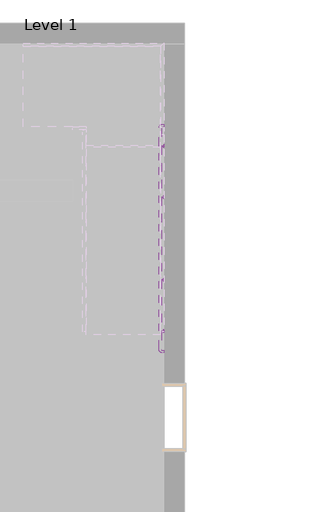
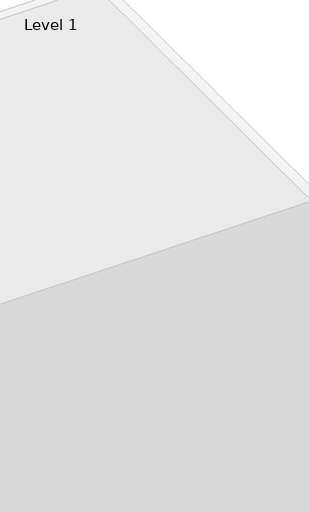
# One storey, part 25 of 27: 1 railing.
"""IFC4 building model written with IfcOpenShell, lengths in millimetres."""

from ifc_helpers import new_model, si_unit, point, frame, frame_2d, origin, place, context, project, spatial, circle_curve, ellipse_curve, trimmed, segment, composite_curve, outline, extrude, element, save
from ifc_brep_helpers import plane_surface, cylinder_surface, revolved_surface, advanced_brep

model = new_model("IFC4")

# Units and contexts
model_context = context("Model", 3, world=origin())
ifc_project = project(units=[si_unit("LENGTHUNIT", "METRE", prefix="MILLI")], contexts=[model_context])

# Site, building, storey
site = spatial("IfcSite", under=ifc_project)
building = spatial("IfcBuilding", under=site)
storey = spatial("IfcBuildingStorey", under=building, Name="Level 1", Elevation=0.0)

# Railing
placement = place(None, origin())
element("IfcRailing", 1, ObjectType="Handrail - Pipe - Wall-Ramp", at=placement, inside=storey, context=model_context, shape_type="SolidModel", body=[
    advanced_brep(
    [(27336.4999097, 26573.5799804, 8491.9039863), (27374.5999097, 26573.5799804, 8491.9039863), (27336.4999097, 29323.5799804, 6764.631259), (27374.5999097, 29323.5799804, 6764.631259)],
    [
        (0, 1, ellipse_curve(frame((27355.5499097, 26573.5799804, 8491.9039863), z_axis=(0.0, -1.0, 0.0), x_axis=(0.0, 0.0, 1.0)), 22.496014, 19.05)),
        (1, 0, ellipse_curve(frame((27355.5499097, 26573.5799804, 8491.9039863), z_axis=(0.0, -1.0, 0.0), x_axis=(0.0, 0.0, 1.0)), 22.496014, 19.05)),
        (2, 3, ellipse_curve(frame((27355.5499097, 29323.5799804, 6764.631259), z_axis=(0.0, 1.0, 0.0), x_axis=(0.0, 0.0, 1.0)), 22.496014, 19.05)),
        (3, 2, ellipse_curve(frame((27355.5499097, 29323.5799804, 6764.631259), z_axis=(0.0, 1.0, 0.0), x_axis=(0.0, 0.0, 1.0)), 22.496014, 19.05)),
        (0, 2),
        (3, 1),
    ],
    [
        plane_surface(frame((27355.5499097, 26573.5799804, 8514.4000003), z_axis=(0.0, -1.0, 0.0), x_axis=(0.0, 0.0, 1.0))),
        plane_surface(frame((27355.5499097, 29323.5799804, 6787.127273), z_axis=(0.0, 1.0, 0.0), x_axis=(0.0, 0.0, 1.0))),
        cylinder_surface(frame((27355.5499097, 26563.4475738, 8498.2681425), z_axis=(0.0, -0.8468166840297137, 0.5318848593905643), x_axis=(1.0, 0.0, 0.0)), 19.05),
    ],
    [
        (0, [[1, 2]]),
        (1, [[3, 4]]),
        (2, [[-1, 5, -4, 6]]),
        (2, [[-2, -6, -3, -5]]),
    ],
),
    advanced_brep(
    [(27355.4999097, 28551.8299804, 7253.8243805), (27355.4999097, 28564.5299804, 7253.8243805), (27355.4999097, 28551.8299804, 7196.6743805), (27355.4999097, 28564.5299804, 7196.6743805), (27374.5499097, 28564.5299804, 7177.6243805), (27374.5499097, 28551.8299804, 7177.6243805), (27403.1249097, 28551.8299804, 7177.6243805), (27403.1249097, 28564.5299804, 7177.6243805)],
    [
        (0, 1, circle_curve(frame((27355.4999097, 28558.1799804, 7253.8243805), z_axis=(0.0, 0.0, 1.0), x_axis=(0.0, 1.0, 0.0)), 6.35)),
        (1, 0, circle_curve(frame((27355.4999097, 28558.1799804, 7253.8243805), z_axis=(0.0, 0.0, 1.0), x_axis=(0.0, 1.0, 0.0)), 6.35)),
        (0, 2),
        (2, 3, circle_curve(frame((27355.4999097, 28558.1799804, 7196.6743805), z_axis=(0.0, 0.0, 1.0), x_axis=(0.0, 1.0, 0.0)), 6.35)),
        (3, 1),
        (3, 2, circle_curve(frame((27355.4999097, 28558.1799804, 7196.6743805), z_axis=(0.0, 0.0, 1.0), x_axis=(0.0, 1.0, 0.0)), 6.35)),
        (4, 3, circle_curve(frame((27374.5499097, 28564.5299804, 7196.6743805), z_axis=(0.0, 1.0, 0.0), x_axis=(-1.0, 0.0, 0.0)), 19.05)),
        (2, 5, circle_curve(frame((27374.5499097, 28551.8299804, 7196.6743805), z_axis=(0.0, -1.0, 0.0), x_axis=(-1.0, 0.0, 0.0)), 19.05)),
        (5, 4, circle_curve(frame((27374.5499097, 28558.1799804, 7177.6243805), z_axis=(-1.0, 0.0, 0.0), x_axis=(0.0, 1.0, 0.0)), 6.35)),
        (4, 5, circle_curve(frame((27374.5499097, 28558.1799804, 7177.6243805), z_axis=(-1.0, 0.0, 0.0), x_axis=(0.0, 1.0, 0.0)), 6.35)),
        (6, 7, circle_curve(frame((27403.1249097, 28558.1799804, 7177.6243805), z_axis=(1.0, 0.0, 0.0), x_axis=(0.0, 1.0, 0.0)), 6.35)),
        (7, 6, circle_curve(frame((27403.1249097, 28558.1799804, 7177.6243805), z_axis=(1.0, 0.0, 0.0), x_axis=(0.0, 1.0, 0.0)), 6.35)),
        (5, 6),
        (7, 4),
    ],
    [
        plane_surface(frame((27355.4999097, 28564.5299804, 7253.8243805), z_axis=(0.0, 0.0, 1.0), x_axis=(1.0, 0.0, 0.0))),
        cylinder_surface(frame((27355.4999097, 28558.1799804, 7253.8243805), z_axis=(0.0, 0.0, 1.0), x_axis=(0.0, 1.0, 0.0)), 6.35),
        revolved_surface(trimmed(ellipse_curve(frame((27355.4999097, 28558.1799804, 7196.6743805), z_axis=(0.0, 0.0, 1.0), x_axis=(0.0, 1.0, 0.0)), 6.35, 6.35), [point((27355.4999097, 28551.8299804, 7196.6743805))], [point((27355.4999097, 28564.5299804, 7196.6743805))], True, "CARTESIAN"), (27374.5499097, 28558.1799804, 7196.6743805), (0.0, -1.0, 0.0)),
        revolved_surface(trimmed(ellipse_curve(frame((27355.4999097, 28558.1799804, 7196.6743805), z_axis=(0.0, 0.0, 1.0), x_axis=(0.0, 1.0, 0.0)), 6.35, 6.35), [point((27355.4999097, 28564.5299804, 7196.6743805))], [point((27355.4999097, 28551.8299804, 7196.6743805))], True, "CARTESIAN"), (27374.5499097, 28558.1799804, 7196.6743805), (0.0, -1.0, 0.0)),
        plane_surface(frame((27403.1249097, 28558.1799804, 7171.2743805), z_axis=(1.0, 0.0, 0.0), x_axis=(0.0, 1.0, 0.0))),
        cylinder_surface(frame((27374.5499097, 28558.1799804, 7177.6243805), z_axis=(-1.0, 0.0, 0.0), x_axis=(0.0, 1.0, 0.0)), 6.35),
    ],
    [
        (0, [[1, 2]]),
        (1, [[-1, 3, 4, 5]]),
        (1, [[-2, -5, 6, -3]]),
        (2, [[7, -4, 8, 9]]),
        (3, [[-8, -6, -7, 10]]),
        (4, [[11, 12]]),
        (5, [[-9, 13, -12, 14]]),
        (5, [[-10, -14, -11, -13]]),
    ],
),
    extrude(outline(composite_curve([segment(trimmed(circle_curve(frame_2d((28558.1799804, 7177.6243805)), 25.4), [point((28583.5799804, 7177.6243805))], [point((28532.7799804, 7177.6243805))], False, "CARTESIAN"), True, "CONTINUOUS"), segment(trimmed(circle_curve(frame_2d((28558.1799804, 7177.6243805)), 25.4), [point((28532.7799804, 7177.6243805))], [point((28583.5799804, 7177.6243805))], False, "CARTESIAN"), True, "CONTINUOUS")], self_intersect=False)), frame((27403.1249097, 0.0, 0.0), z_axis=(1.0, 0.0, 0.0), x_axis=(0.0, 1.0, 0.0)), (0.0, 0.0, 1.0), 9.525),
    advanced_brep(
    [(27355.4999097, 27332.6299804, 8019.6028929), (27355.4999097, 27345.3299804, 8019.6028929), (27355.4999097, 27332.6299804, 7962.4528929), (27355.4999097, 27345.3299804, 7962.4528929), (27374.5499097, 27345.3299804, 7943.4028929), (27374.5499097, 27332.6299804, 7943.4028929), (27403.1249097, 27332.6299804, 7943.4028929), (27403.1249097, 27345.3299804, 7943.4028929)],
    [
        (0, 1, circle_curve(frame((27355.4999097, 27338.9799804, 8019.6028929), z_axis=(0.0, 0.0, 1.0), x_axis=(0.0, 1.0, 0.0)), 6.35)),
        (1, 0, circle_curve(frame((27355.4999097, 27338.9799804, 8019.6028929), z_axis=(0.0, 0.0, 1.0), x_axis=(0.0, 1.0, 0.0)), 6.35)),
        (0, 2),
        (2, 3, circle_curve(frame((27355.4999097, 27338.9799804, 7962.4528929), z_axis=(0.0, 0.0, 1.0), x_axis=(0.0, 1.0, 0.0)), 6.35)),
        (3, 1),
        (3, 2, circle_curve(frame((27355.4999097, 27338.9799804, 7962.4528929), z_axis=(0.0, 0.0, 1.0), x_axis=(0.0, 1.0, 0.0)), 6.35)),
        (4, 3, circle_curve(frame((27374.5499097, 27345.3299804, 7962.4528929), z_axis=(0.0, 1.0, 0.0), x_axis=(-1.0, 0.0, 0.0)), 19.05)),
        (2, 5, circle_curve(frame((27374.5499097, 27332.6299804, 7962.4528929), z_axis=(0.0, -1.0, 0.0), x_axis=(-1.0, 0.0, 0.0)), 19.05)),
        (5, 4, circle_curve(frame((27374.5499097, 27338.9799804, 7943.4028929), z_axis=(-1.0, 0.0, 0.0), x_axis=(0.0, 1.0, 0.0)), 6.35)),
        (4, 5, circle_curve(frame((27374.5499097, 27338.9799804, 7943.4028929), z_axis=(-1.0, 0.0, 0.0), x_axis=(0.0, 1.0, 0.0)), 6.35)),
        (6, 7, circle_curve(frame((27403.1249097, 27338.9799804, 7943.4028929), z_axis=(1.0, 0.0, 0.0), x_axis=(0.0, 1.0, 0.0)), 6.35)),
        (7, 6, circle_curve(frame((27403.1249097, 27338.9799804, 7943.4028929), z_axis=(1.0, 0.0, 0.0), x_axis=(0.0, 1.0, 0.0)), 6.35)),
        (5, 6),
        (7, 4),
    ],
    [
        plane_surface(frame((27355.4999097, 27345.3299804, 8019.6028929), z_axis=(0.0, 0.0, 1.0), x_axis=(1.0, 0.0, 0.0))),
        cylinder_surface(frame((27355.4999097, 27338.9799804, 8019.6028929), z_axis=(0.0, 0.0, 1.0), x_axis=(0.0, 1.0, 0.0)), 6.35),
        revolved_surface(trimmed(ellipse_curve(frame((27355.4999097, 27338.9799804, 7962.4528929), z_axis=(0.0, 0.0, 1.0), x_axis=(0.0, 1.0, 0.0)), 6.35, 6.35), [point((27355.4999097, 27332.6299804, 7962.4528929))], [point((27355.4999097, 27345.3299804, 7962.4528929))], True, "CARTESIAN"), (27374.5499097, 27338.9799804, 7962.4528929), (0.0, -1.0, 0.0)),
        revolved_surface(trimmed(ellipse_curve(frame((27355.4999097, 27338.9799804, 7962.4528929), z_axis=(0.0, 0.0, 1.0), x_axis=(0.0, 1.0, 0.0)), 6.35, 6.35), [point((27355.4999097, 27345.3299804, 7962.4528929))], [point((27355.4999097, 27332.6299804, 7962.4528929))], True, "CARTESIAN"), (27374.5499097, 27338.9799804, 7962.4528929), (0.0, -1.0, 0.0)),
        plane_surface(frame((27403.1249097, 27338.9799804, 7937.0528929), z_axis=(1.0, 0.0, 0.0), x_axis=(0.0, 1.0, 0.0))),
        cylinder_surface(frame((27374.5499097, 27338.9799804, 7943.4028929), z_axis=(-1.0, 0.0, 0.0), x_axis=(0.0, 1.0, 0.0)), 6.35),
    ],
    [
        (0, [[1, 2]]),
        (1, [[-1, 3, 4, 5]]),
        (1, [[-2, -5, 6, -3]]),
        (2, [[7, -4, 8, 9]]),
        (3, [[-8, -6, -7, 10]]),
        (4, [[11, 12]]),
        (5, [[-9, 13, -12, 14]]),
        (5, [[-10, -14, -11, -13]]),
    ],
),
    extrude(outline(composite_curve([segment(trimmed(circle_curve(frame_2d((27338.9799804, 7943.4028929)), 25.4), [point((27364.3799804, 7943.4028929))], [point((27313.5799804, 7943.4028929))], False, "CARTESIAN"), True, "CONTINUOUS"), segment(trimmed(circle_curve(frame_2d((27338.9799804, 7943.4028929)), 25.4), [point((27313.5799804, 7943.4028929))], [point((27364.3799804, 7943.4028929))], False, "CARTESIAN"), True, "CONTINUOUS")], self_intersect=False)), frame((27403.1249097, 0.0, 0.0), z_axis=(1.0, 0.0, 0.0), x_axis=(0.0, 1.0, 0.0)), (0.0, 0.0, 1.0), 9.525),
    advanced_brep(
    [(27374.5499097, 29310.8799804, 6779.0541325), (27336.4499097, 29310.8799804, 6779.0541325), (27374.5499097, 29577.5799804, 6779.0541325), (27336.4499097, 29577.5799804, 6779.0541325), (27412.6499097, 29596.6299804, 6779.0541325), (27412.6499097, 29634.7299804, 6779.0541325), (27393.5999097, 29634.7299804, 6779.0541325), (27393.5999097, 29596.6299804, 6779.0541325)],
    [
        (0, 1, circle_curve(frame((27355.4999097, 29310.8799804, 6779.0541325), z_axis=(0.0, -1.0, 0.0), x_axis=(-1.0, 0.0, 0.0)), 19.05)),
        (1, 0, circle_curve(frame((27355.4999097, 29310.8799804, 6779.0541325), z_axis=(0.0, -1.0, 0.0), x_axis=(-1.0, 0.0, 0.0)), 19.05)),
        (0, 2),
        (2, 3, circle_curve(frame((27355.4999097, 29577.5799804, 6779.0541325), z_axis=(0.0, -1.0, 0.0), x_axis=(-1.0, 0.0, 0.0)), 19.05)),
        (3, 1),
        (3, 2, circle_curve(frame((27355.4999097, 29577.5799804, 6779.0541325), z_axis=(0.0, -1.0, 0.0), x_axis=(-1.0, 0.0, 0.0)), 19.05)),
        (4, 5, circle_curve(frame((27412.6499097, 29615.6799804, 6779.0541325), z_axis=(1.0, 0.0, 0.0), x_axis=(0.0, 1.0, 0.0)), 19.05)),
        (5, 4, circle_curve(frame((27412.6499097, 29615.6799804, 6779.0541325), z_axis=(1.0, 0.0, 0.0), x_axis=(0.0, 1.0, 0.0)), 19.05)),
        (6, 7, circle_curve(frame((27393.5999097, 29615.6799804, 6779.0541325), z_axis=(1.0, 0.0, 0.0), x_axis=(0.0, 1.0, 0.0)), 19.05)),
        (7, 4),
        (5, 6),
        (7, 6, circle_curve(frame((27393.5999097, 29615.6799804, 6779.0541325), z_axis=(1.0, 0.0, 0.0), x_axis=(0.0, 1.0, 0.0)), 19.05)),
        (6, 3, circle_curve(frame((27393.5999097, 29577.5799804, 6779.0541325), z_axis=(0.0, 0.0, 1.0), x_axis=(-1.0, 0.0, 0.0)), 57.15)),
        (2, 7, circle_curve(frame((27393.5999097, 29577.5799804, 6779.0541325), z_axis=(0.0, 0.0, -1.0), x_axis=(-1.0, 0.0, 0.0)), 19.05)),
    ],
    [
        plane_surface(frame((27355.4999097, 29310.8799804, 6779.0541325), z_axis=(0.0, -1.0, 0.0), x_axis=(0.0, 0.0, 1.0))),
        cylinder_surface(frame((27355.4999097, 29310.8799804, 6779.0541325), z_axis=(0.0, -1.0, 0.0), x_axis=(-1.0, 0.0, 0.0)), 19.05),
        plane_surface(frame((27412.6499097, 29615.6799804, 6779.0541325), z_axis=(1.0, 0.0, 0.0), x_axis=(0.0, 0.0, 1.0))),
        cylinder_surface(frame((27393.5999097, 29615.6799804, 6779.0541325), z_axis=(-1.0, 0.0, 0.0), x_axis=(0.0, 1.0, 0.0)), 19.05),
        revolved_surface(trimmed(ellipse_curve(frame((27355.4999097, 29577.5799804, 6779.0541325), z_axis=(0.0, -1.0, 0.0), x_axis=(-1.0, 0.0, 0.0)), 19.05, 19.05), [point((27374.5499097, 29577.5799804, 6779.0541325))], [point((27336.4499097, 29577.5799804, 6779.0541325))], True, "CARTESIAN"), (27393.5999097, 29577.5799804, 6779.0541325), (0.0, 0.0, -1.0)),
        revolved_surface(trimmed(ellipse_curve(frame((27355.4999097, 29577.5799804, 6779.0541325), z_axis=(0.0, -1.0, 0.0), x_axis=(-1.0, 0.0, 0.0)), 19.05, 19.05), [point((27336.4499097, 29577.5799804, 6779.0541325))], [point((27374.5499097, 29577.5799804, 6779.0541325))], True, "CARTESIAN"), (27393.5999097, 29577.5799804, 6779.0541325), (0.0, 0.0, -1.0)),
    ],
    [
        (0, [[1, 2]]),
        (1, [[-1, 3, 4, 5]]),
        (1, [[-2, -5, 6, -3]]),
        (2, [[7, 8]]),
        (3, [[9, 10, -8, 11]]),
        (3, [[12, -11, -7, -10]]),
        (4, [[13, -4, 14, -9]]),
        (5, [[-14, -6, -13, -12]]),
    ],
),
    advanced_brep(
    [(27403.1249097, 29310.8799804, 6696.5041325), (27403.1249097, 29310.8799804, 6709.2041325), (27374.5499097, 29310.8799804, 6696.5041325), (27374.5499097, 29310.8799804, 6709.2041325), (27349.1499097, 29310.8799804, 6779.0541325), (27361.8499097, 29310.8799804, 6779.0541325), (27361.8499097, 29310.8799804, 6721.9041325), (27349.1499097, 29310.8799804, 6721.9041325)],
    [
        (0, 1, circle_curve(frame((27403.1249097, 29310.8799804, 6702.8541325), z_axis=(1.0, 0.0, 0.0), x_axis=(0.0, 0.0, 1.0)), 6.35)),
        (1, 0, circle_curve(frame((27403.1249097, 29310.8799804, 6702.8541325), z_axis=(1.0, 0.0, 0.0), x_axis=(0.0, 0.0, 1.0)), 6.35)),
        (0, 2),
        (2, 3, circle_curve(frame((27374.5499097, 29310.8799804, 6702.8541325), z_axis=(1.0, 0.0, 0.0), x_axis=(0.0, 0.0, 1.0)), 6.35)),
        (3, 1),
        (3, 2, circle_curve(frame((27374.5499097, 29310.8799804, 6702.8541325), z_axis=(1.0, 0.0, 0.0), x_axis=(0.0, 0.0, 1.0)), 6.35)),
        (4, 5, circle_curve(frame((27355.4999097, 29310.8799804, 6779.0541325), z_axis=(0.0, 0.0, 1.0), x_axis=(1.0, 0.0, 0.0)), 6.35)),
        (5, 4, circle_curve(frame((27355.4999097, 29310.8799804, 6779.0541325), z_axis=(0.0, 0.0, 1.0), x_axis=(1.0, 0.0, 0.0)), 6.35)),
        (6, 7, circle_curve(frame((27355.4999097, 29310.8799804, 6721.9041325), z_axis=(0.0, 0.0, 1.0), x_axis=(1.0, 0.0, 0.0)), 6.35)),
        (7, 4),
        (5, 6),
        (7, 6, circle_curve(frame((27355.4999097, 29310.8799804, 6721.9041325), z_axis=(0.0, 0.0, 1.0), x_axis=(1.0, 0.0, 0.0)), 6.35)),
        (6, 3, circle_curve(frame((27374.5499097, 29310.8799804, 6721.9041325), z_axis=(0.0, -1.0, 0.0), x_axis=(0.0, 0.0, -1.0)), 12.7)),
        (2, 7, circle_curve(frame((27374.5499097, 29310.8799804, 6721.9041325), z_axis=(0.0, 1.0, 0.0), x_axis=(0.0, 0.0, -1.0)), 25.4)),
    ],
    [
        plane_surface(frame((27403.1249097, 29310.8799804, 6702.8541325), z_axis=(1.0, 0.0, 0.0), x_axis=(0.0, 1.0, 0.0))),
        cylinder_surface(frame((27403.1249097, 29310.8799804, 6702.8541325), z_axis=(1.0, 0.0, 0.0), x_axis=(0.0, 0.0, 1.0)), 6.35),
        plane_surface(frame((27355.4999097, 29310.8799804, 6779.0541325), z_axis=(0.0, 0.0, 1.0), x_axis=(0.0, 1.0, 0.0))),
        cylinder_surface(frame((27355.4999097, 29310.8799804, 6721.9041325), z_axis=(0.0, 0.0, -1.0), x_axis=(1.0, 0.0, 0.0)), 6.35),
        revolved_surface(trimmed(ellipse_curve(frame((27374.5499097, 29310.8799804, 6702.8541325), z_axis=(1.0, 0.0, 0.0), x_axis=(0.0, 0.0, 1.0)), 6.35, 6.35), [point((27374.5499097, 29310.8799804, 6696.5041325))], [point((27374.5499097, 29310.8799804, 6709.2041325))], True, "CARTESIAN"), (27374.5499097, 29310.8799804, 6721.9041325), (0.0, 1.0, 0.0)),
        revolved_surface(trimmed(ellipse_curve(frame((27374.5499097, 29310.8799804, 6702.8541325), z_axis=(1.0, 0.0, 0.0), x_axis=(0.0, 0.0, 1.0)), 6.35, 6.35), [point((27374.5499097, 29310.8799804, 6709.2041325))], [point((27374.5499097, 29310.8799804, 6696.5041325))], True, "CARTESIAN"), (27374.5499097, 29310.8799804, 6721.9041325), (0.0, 1.0, 0.0)),
    ],
    [
        (0, [[1, 2]]),
        (1, [[-1, 3, 4, 5]]),
        (1, [[-2, -5, 6, -3]]),
        (2, [[7, 8]]),
        (3, [[9, 10, -8, 11]]),
        (3, [[12, -11, -7, -10]]),
        (4, [[13, -4, 14, -9]]),
        (5, [[-14, -6, -13, -12]]),
    ],
),
    extrude(outline(composite_curve([segment(trimmed(circle_curve(frame_2d((29310.8799804, 6702.8541325)), 25.4), [point((29336.2799804, 6702.8541325))], [point((29285.4799804, 6702.8541325))], False, "CARTESIAN"), True, "CONTINUOUS"), segment(trimmed(circle_curve(frame_2d((29310.8799804, 6702.8541325)), 25.4), [point((29285.4799804, 6702.8541325))], [point((29336.2799804, 6702.8541325))], False, "CARTESIAN"), True, "CONTINUOUS")], self_intersect=False)), frame((27403.1249097, 0.0, 0.0), z_axis=(1.0, 0.0, 0.0), x_axis=(0.0, 1.0, 0.0)), (0.0, 0.0, 1.0), 9.525),
    advanced_brep(
    [(27412.6499097, 26300.5299804, 8490.3731408), (27412.6499097, 26262.4299804, 8490.3731408), (27393.5999097, 26300.5299804, 8490.3731408), (27393.5999097, 26262.4299804, 8490.3731408), (27336.4499097, 26319.5799804, 8490.3731408), (27374.5499097, 26319.5799804, 8490.3731408), (27374.5499097, 26586.2799804, 8490.3731408), (27336.4499097, 26586.2799804, 8490.3731408)],
    [
        (0, 1, circle_curve(frame((27412.6499097, 26281.4799804, 8490.3731408), z_axis=(1.0, 0.0, 0.0), x_axis=(0.0, -1.0, 0.0)), 19.05)),
        (1, 0, circle_curve(frame((27412.6499097, 26281.4799804, 8490.3731408), z_axis=(1.0, 0.0, 0.0), x_axis=(0.0, -1.0, 0.0)), 19.05)),
        (0, 2),
        (2, 3, circle_curve(frame((27393.5999097, 26281.4799804, 8490.3731408), z_axis=(1.0, 0.0, 0.0), x_axis=(0.0, -1.0, 0.0)), 19.05)),
        (3, 1),
        (3, 2, circle_curve(frame((27393.5999097, 26281.4799804, 8490.3731408), z_axis=(1.0, 0.0, 0.0), x_axis=(0.0, -1.0, 0.0)), 19.05)),
        (4, 3, circle_curve(frame((27393.5999097, 26319.5799804, 8490.3731408), z_axis=(0.0, 0.0, 1.0), x_axis=(0.0, -1.0, 0.0)), 57.15)),
        (2, 5, circle_curve(frame((27393.5999097, 26319.5799804, 8490.3731408), z_axis=(0.0, 0.0, -1.0), x_axis=(0.0, -1.0, 0.0)), 19.05)),
        (5, 4, circle_curve(frame((27355.4999097, 26319.5799804, 8490.3731408), z_axis=(0.0, -1.0, 0.0), x_axis=(-1.0, 0.0, 0.0)), 19.05)),
        (4, 5, circle_curve(frame((27355.4999097, 26319.5799804, 8490.3731408), z_axis=(0.0, -1.0, 0.0), x_axis=(-1.0, 0.0, 0.0)), 19.05)),
        (6, 7, circle_curve(frame((27355.4999097, 26586.2799804, 8490.3731408), z_axis=(0.0, 1.0, 0.0), x_axis=(-1.0, 0.0, 0.0)), 19.05)),
        (7, 6, circle_curve(frame((27355.4999097, 26586.2799804, 8490.3731408), z_axis=(0.0, 1.0, 0.0), x_axis=(-1.0, 0.0, 0.0)), 19.05)),
        (5, 6),
        (7, 4),
    ],
    [
        plane_surface(frame((27412.6499097, 26281.4799804, 8490.3731408), z_axis=(1.0, 0.0, 0.0), x_axis=(0.0, 0.0, 1.0))),
        cylinder_surface(frame((27412.6499097, 26281.4799804, 8490.3731408), z_axis=(1.0, 0.0, 0.0), x_axis=(0.0, -1.0, 0.0)), 19.05),
        revolved_surface(trimmed(ellipse_curve(frame((27393.5999097, 26281.4799804, 8490.3731408), z_axis=(1.0, 0.0, 0.0), x_axis=(0.0, -1.0, 0.0)), 19.05, 19.05), [point((27393.5999097, 26300.5299804, 8490.3731408))], [point((27393.5999097, 26262.4299804, 8490.3731408))], True, "CARTESIAN"), (27393.5999097, 26319.5799804, 8490.3731408), (0.0, 0.0, -1.0)),
        revolved_surface(trimmed(ellipse_curve(frame((27393.5999097, 26281.4799804, 8490.3731408), z_axis=(1.0, 0.0, 0.0), x_axis=(0.0, -1.0, 0.0)), 19.05, 19.05), [point((27393.5999097, 26262.4299804, 8490.3731408))], [point((27393.5999097, 26300.5299804, 8490.3731408))], True, "CARTESIAN"), (27393.5999097, 26319.5799804, 8490.3731408), (0.0, 0.0, -1.0)),
        plane_surface(frame((27355.4999097, 26586.2799804, 8490.3731408), z_axis=(0.0, 1.0, 0.0), x_axis=(0.0, 0.0, 1.0))),
        cylinder_surface(frame((27355.4999097, 26319.5799804, 8490.3731408), z_axis=(0.0, -1.0, 0.0), x_axis=(-1.0, 0.0, 0.0)), 19.05),
    ],
    [
        (0, [[1, 2]]),
        (1, [[-1, 3, 4, 5]]),
        (1, [[-2, -5, 6, -3]]),
        (2, [[7, -4, 8, 9]]),
        (3, [[-8, -6, -7, 10]]),
        (4, [[11, 12]]),
        (5, [[-9, 13, -12, 14]]),
        (5, [[-10, -14, -11, -13]]),
    ],
),
    advanced_brep(
    [(27403.1249097, 26586.2799804, 8407.8231408), (27403.1249097, 26586.2799804, 8420.5231408), (27374.5499097, 26586.2799804, 8407.8231408), (27374.5499097, 26586.2799804, 8420.5231408), (27361.8499097, 26586.2799804, 8433.2231408), (27349.1499097, 26586.2799804, 8433.2231408), (27349.1499097, 26586.2799804, 8490.3731408), (27361.8499097, 26586.2799804, 8490.3731408)],
    [
        (0, 1, circle_curve(frame((27403.1249097, 26586.2799804, 8414.1731408), z_axis=(1.0, 0.0, 0.0), x_axis=(0.0, 0.0, 1.0)), 6.35)),
        (1, 0, circle_curve(frame((27403.1249097, 26586.2799804, 8414.1731408), z_axis=(1.0, 0.0, 0.0), x_axis=(0.0, 0.0, 1.0)), 6.35)),
        (0, 2),
        (2, 3, circle_curve(frame((27374.5499097, 26586.2799804, 8414.1731408), z_axis=(1.0, 0.0, 0.0), x_axis=(0.0, 0.0, 1.0)), 6.35)),
        (3, 1),
        (3, 2, circle_curve(frame((27374.5499097, 26586.2799804, 8414.1731408), z_axis=(1.0, 0.0, 0.0), x_axis=(0.0, 0.0, 1.0)), 6.35)),
        (4, 3, circle_curve(frame((27374.5499097, 26586.2799804, 8433.2231408), z_axis=(0.0, -1.0, 0.0), x_axis=(0.0, 0.0, -1.0)), 12.7)),
        (2, 5, circle_curve(frame((27374.5499097, 26586.2799804, 8433.2231408), z_axis=(0.0, 1.0, 0.0), x_axis=(0.0, 0.0, -1.0)), 25.4)),
        (5, 4, circle_curve(frame((27355.4999097, 26586.2799804, 8433.2231408), z_axis=(0.0, 0.0, -1.0), x_axis=(1.0, 0.0, 0.0)), 6.35)),
        (4, 5, circle_curve(frame((27355.4999097, 26586.2799804, 8433.2231408), z_axis=(0.0, 0.0, -1.0), x_axis=(1.0, 0.0, 0.0)), 6.35)),
        (6, 7, circle_curve(frame((27355.4999097, 26586.2799804, 8490.3731408), z_axis=(0.0, 0.0, 1.0), x_axis=(1.0, 0.0, 0.0)), 6.35)),
        (7, 6, circle_curve(frame((27355.4999097, 26586.2799804, 8490.3731408), z_axis=(0.0, 0.0, 1.0), x_axis=(1.0, 0.0, 0.0)), 6.35)),
        (5, 6),
        (7, 4),
    ],
    [
        plane_surface(frame((27403.1249097, 26586.2799804, 8414.1731408), z_axis=(1.0, 0.0, 0.0), x_axis=(0.0, 1.0, 0.0))),
        cylinder_surface(frame((27403.1249097, 26586.2799804, 8414.1731408), z_axis=(1.0, 0.0, 0.0), x_axis=(0.0, 0.0, 1.0)), 6.35),
        revolved_surface(trimmed(ellipse_curve(frame((27374.5499097, 26586.2799804, 8414.1731408), z_axis=(1.0, 0.0, 0.0), x_axis=(0.0, 0.0, 1.0)), 6.35, 6.35), [point((27374.5499097, 26586.2799804, 8407.8231408))], [point((27374.5499097, 26586.2799804, 8420.5231408))], True, "CARTESIAN"), (27374.5499097, 26586.2799804, 8433.2231408), (0.0, 1.0, 0.0)),
        revolved_surface(trimmed(ellipse_curve(frame((27374.5499097, 26586.2799804, 8414.1731408), z_axis=(1.0, 0.0, 0.0), x_axis=(0.0, 0.0, 1.0)), 6.35, 6.35), [point((27374.5499097, 26586.2799804, 8420.5231408))], [point((27374.5499097, 26586.2799804, 8407.8231408))], True, "CARTESIAN"), (27374.5499097, 26586.2799804, 8433.2231408), (0.0, 1.0, 0.0)),
        plane_surface(frame((27355.4999097, 26586.2799804, 8490.3731408), z_axis=(0.0, 0.0, 1.0), x_axis=(0.0, 1.0, 0.0))),
        cylinder_surface(frame((27355.4999097, 26586.2799804, 8433.2231408), z_axis=(0.0, 0.0, -1.0), x_axis=(1.0, 0.0, 0.0)), 6.35),
    ],
    [
        (0, [[1, 2]]),
        (1, [[-1, 3, 4, 5]]),
        (1, [[-2, -5, 6, -3]]),
        (2, [[7, -4, 8, 9]]),
        (3, [[-8, -6, -7, 10]]),
        (4, [[11, 12]]),
        (5, [[-9, 13, -12, 14]]),
        (5, [[-10, -14, -11, -13]]),
    ],
),
    extrude(outline(composite_curve([segment(trimmed(circle_curve(frame_2d((26586.2799804, 8414.1731408)), 25.4), [point((26611.6799804, 8414.1731408))], [point((26560.8799804, 8414.1731408))], False, "CARTESIAN"), True, "CONTINUOUS"), segment(trimmed(circle_curve(frame_2d((26586.2799804, 8414.1731408)), 25.4), [point((26560.8799804, 8414.1731408))], [point((26611.6799804, 8414.1731408))], False, "CARTESIAN"), True, "CONTINUOUS")], self_intersect=False)), frame((27403.1249097, 0.0, 0.0), z_axis=(1.0, 0.0, 0.0), x_axis=(0.0, 1.0, 0.0)), (0.0, 0.0, 1.0), 9.525),
    advanced_brep(
    [(27336.4999097, 26573.5799804, 4691.903986), (27374.5999097, 26573.5799804, 4691.903986), (27336.4999097, 29323.5799804, 2964.6312587), (27374.5999097, 29323.5799804, 2964.6312587)],
    [
        (0, 1, ellipse_curve(frame((27355.5499097, 26573.5799804, 4691.903986), z_axis=(0.0, -1.0, 0.0), x_axis=(0.0, 0.0, 1.0)), 22.496014, 19.05)),
        (1, 0, ellipse_curve(frame((27355.5499097, 26573.5799804, 4691.903986), z_axis=(0.0, -1.0, 0.0), x_axis=(0.0, 0.0, 1.0)), 22.496014, 19.05)),
        (2, 3, ellipse_curve(frame((27355.5499097, 29323.5799804, 2964.6312587), z_axis=(0.0, 1.0, 0.0), x_axis=(0.0, 0.0, 1.0)), 22.496014, 19.05)),
        (3, 2, ellipse_curve(frame((27355.5499097, 29323.5799804, 2964.6312587), z_axis=(0.0, 1.0, 0.0), x_axis=(0.0, 0.0, 1.0)), 22.496014, 19.05)),
        (0, 2),
        (3, 1),
    ],
    [
        plane_surface(frame((27355.5499097, 26573.5799804, 4714.4), z_axis=(0.0, -1.0, 0.0), x_axis=(0.0, 0.0, 1.0))),
        plane_surface(frame((27355.5499097, 29323.5799804, 2987.1272727), z_axis=(0.0, 1.0, 0.0), x_axis=(0.0, 0.0, 1.0))),
        cylinder_surface(frame((27355.5499097, 26563.4475738, 4698.2681422), z_axis=(0.0, -0.8468166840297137, 0.5318848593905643), x_axis=(1.0, 0.0, 0.0)), 19.05),
    ],
    [
        (0, [[1, 2]]),
        (1, [[3, 4]]),
        (2, [[-1, 5, -4, 6]]),
        (2, [[-2, -6, -3, -5]]),
    ],
),
    advanced_brep(
    [(27355.4999097, 28551.8299804, 3453.8243802), (27355.4999097, 28564.5299804, 3453.8243802), (27355.4999097, 28551.8299804, 3396.6743802), (27355.4999097, 28564.5299804, 3396.6743802), (27374.5499097, 28564.5299804, 3377.6243802), (27374.5499097, 28551.8299804, 3377.6243802), (27403.1249097, 28551.8299804, 3377.6243802), (27403.1249097, 28564.5299804, 3377.6243802)],
    [
        (0, 1, circle_curve(frame((27355.4999097, 28558.1799804, 3453.8243802), z_axis=(0.0, 0.0, 1.0), x_axis=(0.0, 1.0, 0.0)), 6.35)),
        (1, 0, circle_curve(frame((27355.4999097, 28558.1799804, 3453.8243802), z_axis=(0.0, 0.0, 1.0), x_axis=(0.0, 1.0, 0.0)), 6.35)),
        (0, 2),
        (2, 3, circle_curve(frame((27355.4999097, 28558.1799804, 3396.6743802), z_axis=(0.0, 0.0, 1.0), x_axis=(0.0, 1.0, 0.0)), 6.35)),
        (3, 1),
        (3, 2, circle_curve(frame((27355.4999097, 28558.1799804, 3396.6743802), z_axis=(0.0, 0.0, 1.0), x_axis=(0.0, 1.0, 0.0)), 6.35)),
        (4, 3, circle_curve(frame((27374.5499097, 28564.5299804, 3396.6743802), z_axis=(0.0, 1.0, 0.0), x_axis=(-1.0, 0.0, 0.0)), 19.05)),
        (2, 5, circle_curve(frame((27374.5499097, 28551.8299804, 3396.6743802), z_axis=(0.0, -1.0, 0.0), x_axis=(-1.0, 0.0, 0.0)), 19.05)),
        (5, 4, circle_curve(frame((27374.5499097, 28558.1799804, 3377.6243802), z_axis=(-1.0, 0.0, 0.0), x_axis=(0.0, 1.0, 0.0)), 6.35)),
        (4, 5, circle_curve(frame((27374.5499097, 28558.1799804, 3377.6243802), z_axis=(-1.0, 0.0, 0.0), x_axis=(0.0, 1.0, 0.0)), 6.35)),
        (6, 7, circle_curve(frame((27403.1249097, 28558.1799804, 3377.6243802), z_axis=(1.0, 0.0, 0.0), x_axis=(0.0, 1.0, 0.0)), 6.35)),
        (7, 6, circle_curve(frame((27403.1249097, 28558.1799804, 3377.6243802), z_axis=(1.0, 0.0, 0.0), x_axis=(0.0, 1.0, 0.0)), 6.35)),
        (5, 6),
        (7, 4),
    ],
    [
        plane_surface(frame((27355.4999097, 28564.5299804, 3453.8243802), z_axis=(0.0, 0.0, 1.0), x_axis=(1.0, 0.0, 0.0))),
        cylinder_surface(frame((27355.4999097, 28558.1799804, 3453.8243802), z_axis=(0.0, 0.0, 1.0), x_axis=(0.0, 1.0, 0.0)), 6.35),
        revolved_surface(trimmed(ellipse_curve(frame((27355.4999097, 28558.1799804, 3396.6743802), z_axis=(0.0, 0.0, 1.0), x_axis=(0.0, 1.0, 0.0)), 6.35, 6.35), [point((27355.4999097, 28551.8299804, 3396.6743802))], [point((27355.4999097, 28564.5299804, 3396.6743802))], True, "CARTESIAN"), (27374.5499097, 28558.1799804, 3396.6743802), (0.0, -1.0, 0.0)),
        revolved_surface(trimmed(ellipse_curve(frame((27355.4999097, 28558.1799804, 3396.6743802), z_axis=(0.0, 0.0, 1.0), x_axis=(0.0, 1.0, 0.0)), 6.35, 6.35), [point((27355.4999097, 28564.5299804, 3396.6743802))], [point((27355.4999097, 28551.8299804, 3396.6743802))], True, "CARTESIAN"), (27374.5499097, 28558.1799804, 3396.6743802), (0.0, -1.0, 0.0)),
        plane_surface(frame((27403.1249097, 28558.1799804, 3371.2743802), z_axis=(1.0, 0.0, 0.0), x_axis=(0.0, 1.0, 0.0))),
        cylinder_surface(frame((27374.5499097, 28558.1799804, 3377.6243802), z_axis=(-1.0, 0.0, 0.0), x_axis=(0.0, 1.0, 0.0)), 6.35),
    ],
    [
        (0, [[1, 2]]),
        (1, [[-1, 3, 4, 5]]),
        (1, [[-2, -5, 6, -3]]),
        (2, [[7, -4, 8, 9]]),
        (3, [[-8, -6, -7, 10]]),
        (4, [[11, 12]]),
        (5, [[-9, 13, -12, 14]]),
        (5, [[-10, -14, -11, -13]]),
    ],
),
    extrude(outline(composite_curve([segment(trimmed(circle_curve(frame_2d((28558.1799804, 3377.6243802)), 25.4), [point((28583.5799804, 3377.6243802))], [point((28532.7799804, 3377.6243802))], False, "CARTESIAN"), True, "CONTINUOUS"), segment(trimmed(circle_curve(frame_2d((28558.1799804, 3377.6243802)), 25.4), [point((28532.7799804, 3377.6243802))], [point((28583.5799804, 3377.6243802))], False, "CARTESIAN"), True, "CONTINUOUS")], self_intersect=False)), frame((27403.1249097, 0.0, 0.0), z_axis=(1.0, 0.0, 0.0), x_axis=(0.0, 1.0, 0.0)), (0.0, 0.0, 1.0), 9.525),
    advanced_brep(
    [(27355.4999097, 27332.6299804, 4219.6028926), (27355.4999097, 27345.3299804, 4219.6028926), (27355.4999097, 27332.6299804, 4162.4528926), (27355.4999097, 27345.3299804, 4162.4528926), (27374.5499097, 27345.3299804, 4143.4028926), (27374.5499097, 27332.6299804, 4143.4028926), (27403.1249097, 27332.6299804, 4143.4028926), (27403.1249097, 27345.3299804, 4143.4028926)],
    [
        (0, 1, circle_curve(frame((27355.4999097, 27338.9799804, 4219.6028926), z_axis=(0.0, 0.0, 1.0), x_axis=(0.0, 1.0, 0.0)), 6.35)),
        (1, 0, circle_curve(frame((27355.4999097, 27338.9799804, 4219.6028926), z_axis=(0.0, 0.0, 1.0), x_axis=(0.0, 1.0, 0.0)), 6.35)),
        (0, 2),
        (2, 3, circle_curve(frame((27355.4999097, 27338.9799804, 4162.4528926), z_axis=(0.0, 0.0, 1.0), x_axis=(0.0, 1.0, 0.0)), 6.35)),
        (3, 1),
        (3, 2, circle_curve(frame((27355.4999097, 27338.9799804, 4162.4528926), z_axis=(0.0, 0.0, 1.0), x_axis=(0.0, 1.0, 0.0)), 6.35)),
        (4, 3, circle_curve(frame((27374.5499097, 27345.3299804, 4162.4528926), z_axis=(0.0, 1.0, 0.0), x_axis=(-1.0, 0.0, 0.0)), 19.05)),
        (2, 5, circle_curve(frame((27374.5499097, 27332.6299804, 4162.4528926), z_axis=(0.0, -1.0, 0.0), x_axis=(-1.0, 0.0, 0.0)), 19.05)),
        (5, 4, circle_curve(frame((27374.5499097, 27338.9799804, 4143.4028926), z_axis=(-1.0, 0.0, 0.0), x_axis=(0.0, 1.0, 0.0)), 6.35)),
        (4, 5, circle_curve(frame((27374.5499097, 27338.9799804, 4143.4028926), z_axis=(-1.0, 0.0, 0.0), x_axis=(0.0, 1.0, 0.0)), 6.35)),
        (6, 7, circle_curve(frame((27403.1249097, 27338.9799804, 4143.4028926), z_axis=(1.0, 0.0, 0.0), x_axis=(0.0, 1.0, 0.0)), 6.35)),
        (7, 6, circle_curve(frame((27403.1249097, 27338.9799804, 4143.4028926), z_axis=(1.0, 0.0, 0.0), x_axis=(0.0, 1.0, 0.0)), 6.35)),
        (5, 6),
        (7, 4),
    ],
    [
        plane_surface(frame((27355.4999097, 27345.3299804, 4219.6028926), z_axis=(0.0, 0.0, 1.0), x_axis=(1.0, 0.0, 0.0))),
        cylinder_surface(frame((27355.4999097, 27338.9799804, 4219.6028926), z_axis=(0.0, 0.0, 1.0), x_axis=(0.0, 1.0, 0.0)), 6.35),
        revolved_surface(trimmed(ellipse_curve(frame((27355.4999097, 27338.9799804, 4162.4528926), z_axis=(0.0, 0.0, 1.0), x_axis=(0.0, 1.0, 0.0)), 6.35, 6.35), [point((27355.4999097, 27332.6299804, 4162.4528926))], [point((27355.4999097, 27345.3299804, 4162.4528926))], True, "CARTESIAN"), (27374.5499097, 27338.9799804, 4162.4528926), (0.0, -1.0, 0.0)),
        revolved_surface(trimmed(ellipse_curve(frame((27355.4999097, 27338.9799804, 4162.4528926), z_axis=(0.0, 0.0, 1.0), x_axis=(0.0, 1.0, 0.0)), 6.35, 6.35), [point((27355.4999097, 27345.3299804, 4162.4528926))], [point((27355.4999097, 27332.6299804, 4162.4528926))], True, "CARTESIAN"), (27374.5499097, 27338.9799804, 4162.4528926), (0.0, -1.0, 0.0)),
        plane_surface(frame((27403.1249097, 27338.9799804, 4137.0528926), z_axis=(1.0, 0.0, 0.0), x_axis=(0.0, 1.0, 0.0))),
        cylinder_surface(frame((27374.5499097, 27338.9799804, 4143.4028926), z_axis=(-1.0, 0.0, 0.0), x_axis=(0.0, 1.0, 0.0)), 6.35),
    ],
    [
        (0, [[1, 2]]),
        (1, [[-1, 3, 4, 5]]),
        (1, [[-2, -5, 6, -3]]),
        (2, [[7, -4, 8, 9]]),
        (3, [[-8, -6, -7, 10]]),
        (4, [[11, 12]]),
        (5, [[-9, 13, -12, 14]]),
        (5, [[-10, -14, -11, -13]]),
    ],
),
    extrude(outline(composite_curve([segment(trimmed(circle_curve(frame_2d((27338.9799804, 4143.4028926)), 25.4), [point((27364.3799804, 4143.4028926))], [point((27313.5799804, 4143.4028926))], False, "CARTESIAN"), True, "CONTINUOUS"), segment(trimmed(circle_curve(frame_2d((27338.9799804, 4143.4028926)), 25.4), [point((27313.5799804, 4143.4028926))], [point((27364.3799804, 4143.4028926))], False, "CARTESIAN"), True, "CONTINUOUS")], self_intersect=False)), frame((27403.1249097, 0.0, 0.0), z_axis=(1.0, 0.0, 0.0), x_axis=(0.0, 1.0, 0.0)), (0.0, 0.0, 1.0), 9.525),
    advanced_brep(
    [(27374.5499097, 29310.8799804, 2979.0541322), (27336.4499097, 29310.8799804, 2979.0541322), (27374.5499097, 29577.5799804, 2979.0541322), (27336.4499097, 29577.5799804, 2979.0541322), (27412.6499097, 29596.6299804, 2979.0541322), (27412.6499097, 29634.7299804, 2979.0541322), (27393.5999097, 29634.7299804, 2979.0541322), (27393.5999097, 29596.6299804, 2979.0541322)],
    [
        (0, 1, circle_curve(frame((27355.4999097, 29310.8799804, 2979.0541322), z_axis=(0.0, -1.0, 0.0), x_axis=(-1.0, 0.0, 0.0)), 19.05)),
        (1, 0, circle_curve(frame((27355.4999097, 29310.8799804, 2979.0541322), z_axis=(0.0, -1.0, 0.0), x_axis=(-1.0, 0.0, 0.0)), 19.05)),
        (0, 2),
        (2, 3, circle_curve(frame((27355.4999097, 29577.5799804, 2979.0541322), z_axis=(0.0, -1.0, 0.0), x_axis=(-1.0, 0.0, 0.0)), 19.05)),
        (3, 1),
        (3, 2, circle_curve(frame((27355.4999097, 29577.5799804, 2979.0541322), z_axis=(0.0, -1.0, 0.0), x_axis=(-1.0, 0.0, 0.0)), 19.05)),
        (4, 5, circle_curve(frame((27412.6499097, 29615.6799804, 2979.0541322), z_axis=(1.0, 0.0, 0.0), x_axis=(0.0, 1.0, 0.0)), 19.05)),
        (5, 4, circle_curve(frame((27412.6499097, 29615.6799804, 2979.0541322), z_axis=(1.0, 0.0, 0.0), x_axis=(0.0, 1.0, 0.0)), 19.05)),
        (6, 7, circle_curve(frame((27393.5999097, 29615.6799804, 2979.0541322), z_axis=(1.0, 0.0, 0.0), x_axis=(0.0, 1.0, 0.0)), 19.05)),
        (7, 4),
        (5, 6),
        (7, 6, circle_curve(frame((27393.5999097, 29615.6799804, 2979.0541322), z_axis=(1.0, 0.0, 0.0), x_axis=(0.0, 1.0, 0.0)), 19.05)),
        (6, 3, circle_curve(frame((27393.5999097, 29577.5799804, 2979.0541322), z_axis=(0.0, 0.0, 1.0), x_axis=(-1.0, 0.0, 0.0)), 57.15)),
        (2, 7, circle_curve(frame((27393.5999097, 29577.5799804, 2979.0541322), z_axis=(0.0, 0.0, -1.0), x_axis=(-1.0, 0.0, 0.0)), 19.05)),
    ],
    [
        plane_surface(frame((27355.4999097, 29310.8799804, 2979.0541322), z_axis=(0.0, -1.0, 0.0), x_axis=(0.0, 0.0, 1.0))),
        cylinder_surface(frame((27355.4999097, 29310.8799804, 2979.0541322), z_axis=(0.0, -1.0, 0.0), x_axis=(-1.0, 0.0, 0.0)), 19.05),
        plane_surface(frame((27412.6499097, 29615.6799804, 2979.0541322), z_axis=(1.0, 0.0, 0.0), x_axis=(0.0, 0.0, 1.0))),
        cylinder_surface(frame((27393.5999097, 29615.6799804, 2979.0541322), z_axis=(-1.0, 0.0, 0.0), x_axis=(0.0, 1.0, 0.0)), 19.05),
        revolved_surface(trimmed(ellipse_curve(frame((27355.4999097, 29577.5799804, 2979.0541322), z_axis=(0.0, -1.0, 0.0), x_axis=(-1.0, 0.0, 0.0)), 19.05, 19.05), [point((27374.5499097, 29577.5799804, 2979.0541322))], [point((27336.4499097, 29577.5799804, 2979.0541322))], True, "CARTESIAN"), (27393.5999097, 29577.5799804, 2979.0541322), (0.0, 0.0, -1.0)),
        revolved_surface(trimmed(ellipse_curve(frame((27355.4999097, 29577.5799804, 2979.0541322), z_axis=(0.0, -1.0, 0.0), x_axis=(-1.0, 0.0, 0.0)), 19.05, 19.05), [point((27336.4499097, 29577.5799804, 2979.0541322))], [point((27374.5499097, 29577.5799804, 2979.0541322))], True, "CARTESIAN"), (27393.5999097, 29577.5799804, 2979.0541322), (0.0, 0.0, -1.0)),
    ],
    [
        (0, [[1, 2]]),
        (1, [[-1, 3, 4, 5]]),
        (1, [[-2, -5, 6, -3]]),
        (2, [[7, 8]]),
        (3, [[9, 10, -8, 11]]),
        (3, [[12, -11, -7, -10]]),
        (4, [[13, -4, 14, -9]]),
        (5, [[-14, -6, -13, -12]]),
    ],
),
    advanced_brep(
    [(27403.1249097, 29310.8799804, 2896.5041322), (27403.1249097, 29310.8799804, 2909.2041322), (27374.5499097, 29310.8799804, 2896.5041322), (27374.5499097, 29310.8799804, 2909.2041322), (27349.1499097, 29310.8799804, 2979.0541322), (27361.8499097, 29310.8799804, 2979.0541322), (27361.8499097, 29310.8799804, 2921.9041322), (27349.1499097, 29310.8799804, 2921.9041322)],
    [
        (0, 1, circle_curve(frame((27403.1249097, 29310.8799804, 2902.8541322), z_axis=(1.0, 0.0, 0.0), x_axis=(0.0, 0.0, 1.0)), 6.35)),
        (1, 0, circle_curve(frame((27403.1249097, 29310.8799804, 2902.8541322), z_axis=(1.0, 0.0, 0.0), x_axis=(0.0, 0.0, 1.0)), 6.35)),
        (0, 2),
        (2, 3, circle_curve(frame((27374.5499097, 29310.8799804, 2902.8541322), z_axis=(1.0, 0.0, 0.0), x_axis=(0.0, 0.0, 1.0)), 6.35)),
        (3, 1),
        (3, 2, circle_curve(frame((27374.5499097, 29310.8799804, 2902.8541322), z_axis=(1.0, 0.0, 0.0), x_axis=(0.0, 0.0, 1.0)), 6.35)),
        (4, 5, circle_curve(frame((27355.4999097, 29310.8799804, 2979.0541322), z_axis=(0.0, 0.0, 1.0), x_axis=(1.0, 0.0, 0.0)), 6.35)),
        (5, 4, circle_curve(frame((27355.4999097, 29310.8799804, 2979.0541322), z_axis=(0.0, 0.0, 1.0), x_axis=(1.0, 0.0, 0.0)), 6.35)),
        (6, 7, circle_curve(frame((27355.4999097, 29310.8799804, 2921.9041322), z_axis=(0.0, 0.0, 1.0), x_axis=(1.0, 0.0, 0.0)), 6.35)),
        (7, 4),
        (5, 6),
        (7, 6, circle_curve(frame((27355.4999097, 29310.8799804, 2921.9041322), z_axis=(0.0, 0.0, 1.0), x_axis=(1.0, 0.0, 0.0)), 6.35)),
        (6, 3, circle_curve(frame((27374.5499097, 29310.8799804, 2921.9041322), z_axis=(0.0, -1.0, 0.0), x_axis=(0.0, 0.0, -1.0)), 12.7)),
        (2, 7, circle_curve(frame((27374.5499097, 29310.8799804, 2921.9041322), z_axis=(0.0, 1.0, 0.0), x_axis=(0.0, 0.0, -1.0)), 25.4)),
    ],
    [
        plane_surface(frame((27403.1249097, 29310.8799804, 2902.8541322), z_axis=(1.0, 0.0, 0.0), x_axis=(0.0, 1.0, 0.0))),
        cylinder_surface(frame((27403.1249097, 29310.8799804, 2902.8541322), z_axis=(1.0, 0.0, 0.0), x_axis=(0.0, 0.0, 1.0)), 6.35),
        plane_surface(frame((27355.4999097, 29310.8799804, 2979.0541322), z_axis=(0.0, 0.0, 1.0), x_axis=(0.0, 1.0, 0.0))),
        cylinder_surface(frame((27355.4999097, 29310.8799804, 2921.9041322), z_axis=(0.0, 0.0, -1.0), x_axis=(1.0, 0.0, 0.0)), 6.35),
        revolved_surface(trimmed(ellipse_curve(frame((27374.5499097, 29310.8799804, 2902.8541322), z_axis=(1.0, 0.0, 0.0), x_axis=(0.0, 0.0, 1.0)), 6.35, 6.35), [point((27374.5499097, 29310.8799804, 2896.5041322))], [point((27374.5499097, 29310.8799804, 2909.2041322))], True, "CARTESIAN"), (27374.5499097, 29310.8799804, 2921.9041322), (0.0, 1.0, 0.0)),
        revolved_surface(trimmed(ellipse_curve(frame((27374.5499097, 29310.8799804, 2902.8541322), z_axis=(1.0, 0.0, 0.0), x_axis=(0.0, 0.0, 1.0)), 6.35, 6.35), [point((27374.5499097, 29310.8799804, 2909.2041322))], [point((27374.5499097, 29310.8799804, 2896.5041322))], True, "CARTESIAN"), (27374.5499097, 29310.8799804, 2921.9041322), (0.0, 1.0, 0.0)),
    ],
    [
        (0, [[1, 2]]),
        (1, [[-1, 3, 4, 5]]),
        (1, [[-2, -5, 6, -3]]),
        (2, [[7, 8]]),
        (3, [[9, 10, -8, 11]]),
        (3, [[12, -11, -7, -10]]),
        (4, [[13, -4, 14, -9]]),
        (5, [[-14, -6, -13, -12]]),
    ],
),
    extrude(outline(composite_curve([segment(trimmed(circle_curve(frame_2d((29310.8799804, 2902.8541322)), 25.4), [point((29336.2799804, 2902.8541322))], [point((29285.4799804, 2902.8541322))], False, "CARTESIAN"), True, "CONTINUOUS"), segment(trimmed(circle_curve(frame_2d((29310.8799804, 2902.8541322)), 25.4), [point((29285.4799804, 2902.8541322))], [point((29336.2799804, 2902.8541322))], False, "CARTESIAN"), True, "CONTINUOUS")], self_intersect=False)), frame((27403.1249097, 0.0, 0.0), z_axis=(1.0, 0.0, 0.0), x_axis=(0.0, 1.0, 0.0)), (0.0, 0.0, 1.0), 9.525),
    advanced_brep(
    [(27412.6499097, 26300.5299804, 4690.3731405), (27412.6499097, 26262.4299804, 4690.3731405), (27393.5999097, 26300.5299804, 4690.3731405), (27393.5999097, 26262.4299804, 4690.3731405), (27336.4499097, 26319.5799804, 4690.3731405), (27374.5499097, 26319.5799804, 4690.3731405), (27374.5499097, 26586.2799804, 4690.3731405), (27336.4499097, 26586.2799804, 4690.3731405)],
    [
        (0, 1, circle_curve(frame((27412.6499097, 26281.4799804, 4690.3731405), z_axis=(1.0, 0.0, 0.0), x_axis=(0.0, -1.0, 0.0)), 19.05)),
        (1, 0, circle_curve(frame((27412.6499097, 26281.4799804, 4690.3731405), z_axis=(1.0, 0.0, 0.0), x_axis=(0.0, -1.0, 0.0)), 19.05)),
        (0, 2),
        (2, 3, circle_curve(frame((27393.5999097, 26281.4799804, 4690.3731405), z_axis=(1.0, 0.0, 0.0), x_axis=(0.0, -1.0, 0.0)), 19.05)),
        (3, 1),
        (3, 2, circle_curve(frame((27393.5999097, 26281.4799804, 4690.3731405), z_axis=(1.0, 0.0, 0.0), x_axis=(0.0, -1.0, 0.0)), 19.05)),
        (4, 3, circle_curve(frame((27393.5999097, 26319.5799804, 4690.3731405), z_axis=(0.0, 0.0, 1.0), x_axis=(0.0, -1.0, 0.0)), 57.15)),
        (2, 5, circle_curve(frame((27393.5999097, 26319.5799804, 4690.3731405), z_axis=(0.0, 0.0, -1.0), x_axis=(0.0, -1.0, 0.0)), 19.05)),
        (5, 4, circle_curve(frame((27355.4999097, 26319.5799804, 4690.3731405), z_axis=(0.0, -1.0, 0.0), x_axis=(-1.0, 0.0, 0.0)), 19.05)),
        (4, 5, circle_curve(frame((27355.4999097, 26319.5799804, 4690.3731405), z_axis=(0.0, -1.0, 0.0), x_axis=(-1.0, 0.0, 0.0)), 19.05)),
        (6, 7, circle_curve(frame((27355.4999097, 26586.2799804, 4690.3731405), z_axis=(0.0, 1.0, 0.0), x_axis=(-1.0, 0.0, 0.0)), 19.05)),
        (7, 6, circle_curve(frame((27355.4999097, 26586.2799804, 4690.3731405), z_axis=(0.0, 1.0, 0.0), x_axis=(-1.0, 0.0, 0.0)), 19.05)),
        (5, 6),
        (7, 4),
    ],
    [
        plane_surface(frame((27412.6499097, 26281.4799804, 4690.3731405), z_axis=(1.0, 0.0, 0.0), x_axis=(0.0, 0.0, 1.0))),
        cylinder_surface(frame((27412.6499097, 26281.4799804, 4690.3731405), z_axis=(1.0, 0.0, 0.0), x_axis=(0.0, -1.0, 0.0)), 19.05),
        revolved_surface(trimmed(ellipse_curve(frame((27393.5999097, 26281.4799804, 4690.3731405), z_axis=(1.0, 0.0, 0.0), x_axis=(0.0, -1.0, 0.0)), 19.05, 19.05), [point((27393.5999097, 26300.5299804, 4690.3731405))], [point((27393.5999097, 26262.4299804, 4690.3731405))], True, "CARTESIAN"), (27393.5999097, 26319.5799804, 4690.3731405), (0.0, 0.0, -1.0)),
        revolved_surface(trimmed(ellipse_curve(frame((27393.5999097, 26281.4799804, 4690.3731405), z_axis=(1.0, 0.0, 0.0), x_axis=(0.0, -1.0, 0.0)), 19.05, 19.05), [point((27393.5999097, 26262.4299804, 4690.3731405))], [point((27393.5999097, 26300.5299804, 4690.3731405))], True, "CARTESIAN"), (27393.5999097, 26319.5799804, 4690.3731405), (0.0, 0.0, -1.0)),
        plane_surface(frame((27355.4999097, 26586.2799804, 4690.3731405), z_axis=(0.0, 1.0, 0.0), x_axis=(0.0, 0.0, 1.0))),
        cylinder_surface(frame((27355.4999097, 26319.5799804, 4690.3731405), z_axis=(0.0, -1.0, 0.0), x_axis=(-1.0, 0.0, 0.0)), 19.05),
    ],
    [
        (0, [[1, 2]]),
        (1, [[-1, 3, 4, 5]]),
        (1, [[-2, -5, 6, -3]]),
        (2, [[7, -4, 8, 9]]),
        (3, [[-8, -6, -7, 10]]),
        (4, [[11, 12]]),
        (5, [[-9, 13, -12, 14]]),
        (5, [[-10, -14, -11, -13]]),
    ],
),
    advanced_brep(
    [(27403.1249097, 26586.2799804, 4607.8231405), (27403.1249097, 26586.2799804, 4620.5231405), (27374.5499097, 26586.2799804, 4607.8231405), (27374.5499097, 26586.2799804, 4620.5231405), (27361.8499097, 26586.2799804, 4633.2231405), (27349.1499097, 26586.2799804, 4633.2231405), (27349.1499097, 26586.2799804, 4690.3731405), (27361.8499097, 26586.2799804, 4690.3731405)],
    [
        (0, 1, circle_curve(frame((27403.1249097, 26586.2799804, 4614.1731405), z_axis=(1.0, 0.0, 0.0), x_axis=(0.0, 0.0, 1.0)), 6.35)),
        (1, 0, circle_curve(frame((27403.1249097, 26586.2799804, 4614.1731405), z_axis=(1.0, 0.0, 0.0), x_axis=(0.0, 0.0, 1.0)), 6.35)),
        (0, 2),
        (2, 3, circle_curve(frame((27374.5499097, 26586.2799804, 4614.1731405), z_axis=(1.0, 0.0, 0.0), x_axis=(0.0, 0.0, 1.0)), 6.35)),
        (3, 1),
        (3, 2, circle_curve(frame((27374.5499097, 26586.2799804, 4614.1731405), z_axis=(1.0, 0.0, 0.0), x_axis=(0.0, 0.0, 1.0)), 6.35)),
        (4, 3, circle_curve(frame((27374.5499097, 26586.2799804, 4633.2231405), z_axis=(0.0, -1.0, 0.0), x_axis=(0.0, 0.0, -1.0)), 12.7)),
        (2, 5, circle_curve(frame((27374.5499097, 26586.2799804, 4633.2231405), z_axis=(0.0, 1.0, 0.0), x_axis=(0.0, 0.0, -1.0)), 25.4)),
        (5, 4, circle_curve(frame((27355.4999097, 26586.2799804, 4633.2231405), z_axis=(0.0, 0.0, -1.0), x_axis=(1.0, 0.0, 0.0)), 6.35)),
        (4, 5, circle_curve(frame((27355.4999097, 26586.2799804, 4633.2231405), z_axis=(0.0, 0.0, -1.0), x_axis=(1.0, 0.0, 0.0)), 6.35)),
        (6, 7, circle_curve(frame((27355.4999097, 26586.2799804, 4690.3731405), z_axis=(0.0, 0.0, 1.0), x_axis=(1.0, 0.0, 0.0)), 6.35)),
        (7, 6, circle_curve(frame((27355.4999097, 26586.2799804, 4690.3731405), z_axis=(0.0, 0.0, 1.0), x_axis=(1.0, 0.0, 0.0)), 6.35)),
        (5, 6),
        (7, 4),
    ],
    [
        plane_surface(frame((27403.1249097, 26586.2799804, 4614.1731405), z_axis=(1.0, 0.0, 0.0), x_axis=(0.0, 1.0, 0.0))),
        cylinder_surface(frame((27403.1249097, 26586.2799804, 4614.1731405), z_axis=(1.0, 0.0, 0.0), x_axis=(0.0, 0.0, 1.0)), 6.35),
        revolved_surface(trimmed(ellipse_curve(frame((27374.5499097, 26586.2799804, 4614.1731405), z_axis=(1.0, 0.0, 0.0), x_axis=(0.0, 0.0, 1.0)), 6.35, 6.35), [point((27374.5499097, 26586.2799804, 4607.8231405))], [point((27374.5499097, 26586.2799804, 4620.5231405))], True, "CARTESIAN"), (27374.5499097, 26586.2799804, 4633.2231405), (0.0, 1.0, 0.0)),
        revolved_surface(trimmed(ellipse_curve(frame((27374.5499097, 26586.2799804, 4614.1731405), z_axis=(1.0, 0.0, 0.0), x_axis=(0.0, 0.0, 1.0)), 6.35, 6.35), [point((27374.5499097, 26586.2799804, 4620.5231405))], [point((27374.5499097, 26586.2799804, 4607.8231405))], True, "CARTESIAN"), (27374.5499097, 26586.2799804, 4633.2231405), (0.0, 1.0, 0.0)),
        plane_surface(frame((27355.4999097, 26586.2799804, 4690.3731405), z_axis=(0.0, 0.0, 1.0), x_axis=(0.0, 1.0, 0.0))),
        cylinder_surface(frame((27355.4999097, 26586.2799804, 4633.2231405), z_axis=(0.0, 0.0, -1.0), x_axis=(1.0, 0.0, 0.0)), 6.35),
    ],
    [
        (0, [[1, 2]]),
        (1, [[-1, 3, 4, 5]]),
        (1, [[-2, -5, 6, -3]]),
        (2, [[7, -4, 8, 9]]),
        (3, [[-8, -6, -7, 10]]),
        (4, [[11, 12]]),
        (5, [[-9, 13, -12, 14]]),
        (5, [[-10, -14, -11, -13]]),
    ],
),
    extrude(outline(composite_curve([segment(trimmed(circle_curve(frame_2d((26586.2799804, 4614.1731405)), 25.4), [point((26611.6799804, 4614.1731405))], [point((26560.8799804, 4614.1731405))], False, "CARTESIAN"), True, "CONTINUOUS"), segment(trimmed(circle_curve(frame_2d((26586.2799804, 4614.1731405)), 25.4), [point((26560.8799804, 4614.1731405))], [point((26611.6799804, 4614.1731405))], False, "CARTESIAN"), True, "CONTINUOUS")], self_intersect=False)), frame((27403.1249097, 0.0, 0.0), z_axis=(1.0, 0.0, 0.0), x_axis=(0.0, 1.0, 0.0)), (0.0, 0.0, 1.0), 9.525),
])

save(model, "model.ifc")
